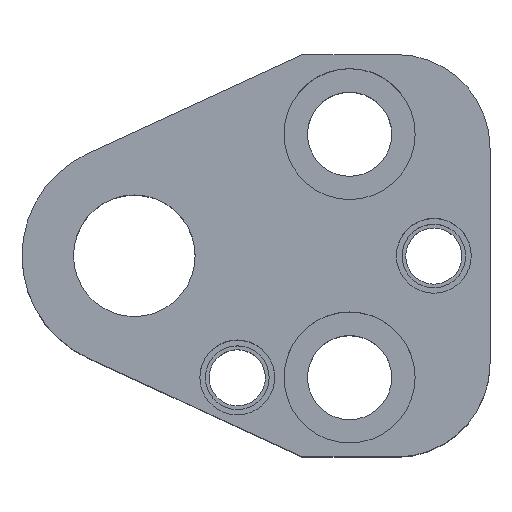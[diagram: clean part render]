
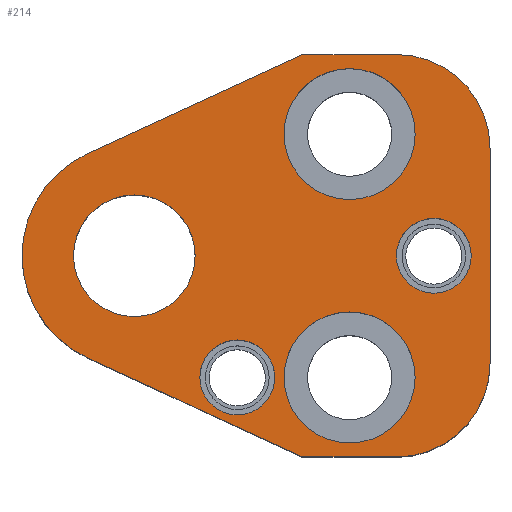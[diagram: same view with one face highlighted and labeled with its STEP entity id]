
A CAD part, top view. The second image highlights one B-rep face of the part: STEP entity #214.
In plain terms, the highlighted planar face has unit normal (0, 0, 1).
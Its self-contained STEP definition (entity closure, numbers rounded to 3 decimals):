
#100=FACE_BOUND('',#305,.T.);
#101=FACE_BOUND('',#306,.T.);
#102=FACE_BOUND('',#307,.T.);
#103=FACE_BOUND('',#308,.T.);
#104=FACE_BOUND('',#309,.T.);
#105=FACE_BOUND('',#310,.T.);
#148=CIRCLE('',#832,10.);
#150=CIRCLE('',#836,10.);
#152=CIRCLE('',#840,4.);
#154=CIRCLE('',#843,4.);
#156=CIRCLE('',#846,4.);
#158=CIRCLE('',#849,4.);
#168=CIRCLE('',#864,12.);
#169=CIRCLE('',#865,7.);
#170=CIRCLE('',#866,7.);
#171=CIRCLE('',#867,7.);
#172=CIRCLE('',#868,7.);
#173=CIRCLE('',#869,6.5);
#174=CIRCLE('',#870,6.5);
#214=ADVANCED_FACE('',(#100,#101,#102,#103,#104,#105),#246,.T.);
#246=PLANE('',#871);
#305=EDGE_LOOP('',(#401,#402,#403,#404,#405,#406,#407,#408));
#306=EDGE_LOOP('',(#409,#410));
#307=EDGE_LOOP('',(#411,#412));
#308=EDGE_LOOP('',(#413,#414));
#309=EDGE_LOOP('',(#415,#416));
#310=EDGE_LOOP('',(#417,#418));
#401=ORIENTED_EDGE('',*,*,#627,.T.);
#402=ORIENTED_EDGE('',*,*,#631,.T.);
#403=ORIENTED_EDGE('',*,*,#634,.T.);
#404=ORIENTED_EDGE('',*,*,#637,.T.);
#405=ORIENTED_EDGE('',*,*,#640,.T.);
#406=ORIENTED_EDGE('',*,*,#666,.T.);
#407=ORIENTED_EDGE('',*,*,#667,.T.);
#408=ORIENTED_EDGE('',*,*,#668,.T.);
#409=ORIENTED_EDGE('',*,*,#669,.F.);
#410=ORIENTED_EDGE('',*,*,#670,.F.);
#411=ORIENTED_EDGE('',*,*,#671,.F.);
#412=ORIENTED_EDGE('',*,*,#672,.F.);
#413=ORIENTED_EDGE('',*,*,#652,.F.);
#414=ORIENTED_EDGE('',*,*,#648,.F.);
#415=ORIENTED_EDGE('',*,*,#646,.F.);
#416=ORIENTED_EDGE('',*,*,#642,.F.);
#417=ORIENTED_EDGE('',*,*,#673,.T.);
#418=ORIENTED_EDGE('',*,*,#674,.T.);
#558=VERTEX_POINT('',#1171);
#559=VERTEX_POINT('',#1173);
#562=VERTEX_POINT('',#1180);
#564=VERTEX_POINT('',#1186);
#566=VERTEX_POINT('',#1192);
#568=VERTEX_POINT('',#1198);
#569=VERTEX_POINT('',#1203);
#570=VERTEX_POINT('',#1204);
#573=VERTEX_POINT('',#1215);
#574=VERTEX_POINT('',#1216);
#585=VERTEX_POINT('',#1251);
#586=VERTEX_POINT('',#1253);
#587=VERTEX_POINT('',#1256);
#588=VERTEX_POINT('',#1257);
#589=VERTEX_POINT('',#1260);
#590=VERTEX_POINT('',#1261);
#591=VERTEX_POINT('',#1264);
#592=VERTEX_POINT('',#1265);
#627=EDGE_CURVE('',#559,#558,#731,.T.);
#631=EDGE_CURVE('',#558,#562,#148,.T.);
#634=EDGE_CURVE('',#562,#564,#736,.T.);
#637=EDGE_CURVE('',#564,#566,#150,.T.);
#640=EDGE_CURVE('',#566,#568,#740,.T.);
#642=EDGE_CURVE('',#569,#570,#152,.T.);
#646=EDGE_CURVE('',#570,#569,#154,.T.);
#648=EDGE_CURVE('',#573,#574,#156,.T.);
#652=EDGE_CURVE('',#574,#573,#158,.T.);
#666=EDGE_CURVE('',#568,#585,#750,.T.);
#667=EDGE_CURVE('',#585,#586,#168,.T.);
#668=EDGE_CURVE('',#586,#559,#751,.T.);
#669=EDGE_CURVE('',#587,#588,#169,.T.);
#670=EDGE_CURVE('',#588,#587,#170,.T.);
#671=EDGE_CURVE('',#589,#590,#171,.T.);
#672=EDGE_CURVE('',#590,#589,#172,.T.);
#673=EDGE_CURVE('',#591,#592,#173,.T.);
#674=EDGE_CURVE('',#592,#591,#174,.T.);
#731=LINE('',#1172,#781);
#736=LINE('',#1187,#786);
#740=LINE('',#1199,#790);
#750=LINE('',#1250,#800);
#751=LINE('',#1254,#801);
#781=VECTOR('',#929,1.);
#786=VECTOR('',#942,1.);
#790=VECTOR('',#954,1.);
#800=VECTOR('',#1014,1.);
#801=VECTOR('',#1017,1.);
#832=AXIS2_PLACEMENT_3D('',#1181,#935,#936);
#836=AXIS2_PLACEMENT_3D('',#1193,#947,#948);
#840=AXIS2_PLACEMENT_3D('',#1202,#958,#959);
#843=AXIS2_PLACEMENT_3D('',#1211,#966,#967);
#846=AXIS2_PLACEMENT_3D('',#1214,#972,#973);
#849=AXIS2_PLACEMENT_3D('',#1223,#980,#981);
#864=AXIS2_PLACEMENT_3D('',#1252,#1015,#1016);
#865=AXIS2_PLACEMENT_3D('',#1255,#1018,#1019);
#866=AXIS2_PLACEMENT_3D('',#1258,#1020,#1021);
#867=AXIS2_PLACEMENT_3D('',#1259,#1022,#1023);
#868=AXIS2_PLACEMENT_3D('',#1262,#1024,#1025);
#869=AXIS2_PLACEMENT_3D('',#1263,#1026,#1027);
#870=AXIS2_PLACEMENT_3D('',#1266,#1028,#1029);
#871=AXIS2_PLACEMENT_3D('',#1267,#1030,#1031);
#929=DIRECTION('',(1.,0.,0.));
#935=DIRECTION('',(0.,0.,1.));
#936=DIRECTION('',(-0.707,0.707,0.));
#942=DIRECTION('',(0.,1.,0.));
#947=DIRECTION('',(0.,0.,1.));
#948=DIRECTION('',(-0.707,-0.707,0.));
#954=DIRECTION('',(-1.,0.,0.));
#958=DIRECTION('',(0.,0.,1.));
#959=DIRECTION('',(-1.,0.,0.));
#966=DIRECTION('',(0.,0.,1.));
#967=DIRECTION('',(1.,0.,0.));
#972=DIRECTION('',(0.,0.,1.));
#973=DIRECTION('',(-1.,0.,0.));
#980=DIRECTION('',(0.,0.,1.));
#981=DIRECTION('',(1.,0.,0.));
#1014=DIRECTION('',(-0.908,-0.418,0.));
#1015=DIRECTION('',(0.,0.,1.));
#1016=DIRECTION('',(1.,0.,0.));
#1017=DIRECTION('',(0.908,-0.418,0.));
#1018=DIRECTION('',(0.,0.,1.));
#1019=DIRECTION('',(1.,0.,0.));
#1020=DIRECTION('',(0.,0.,1.));
#1021=DIRECTION('',(-1.,0.,0.));
#1022=DIRECTION('',(0.,0.,1.));
#1023=DIRECTION('',(1.,0.,0.));
#1024=DIRECTION('',(0.,0.,1.));
#1025=DIRECTION('',(-1.,0.,0.));
#1026=DIRECTION('',(0.,0.,-1.));
#1027=DIRECTION('',(-1.,0.,0.));
#1028=DIRECTION('',(0.,0.,-1.));
#1029=DIRECTION('',(1.,0.,0.));
#1030=DIRECTION('',(0.,0.,1.));
#1031=DIRECTION('',(0.908,-0.418,0.));
#1171=CARTESIAN_POINT('',(28.,-21.5,30.));
#1172=CARTESIAN_POINT('',(18.,-21.5,30.));
#1173=CARTESIAN_POINT('',(18.,-21.5,30.));
#1180=CARTESIAN_POINT('',(38.,-11.5,30.));
#1181=CARTESIAN_POINT('',(28.,-11.5,30.));
#1186=CARTESIAN_POINT('',(38.,11.5,30.));
#1187=CARTESIAN_POINT('',(38.,11.5,30.));
#1192=CARTESIAN_POINT('',(28.,21.5,30.));
#1193=CARTESIAN_POINT('',(28.,11.5,30.));
#1198=CARTESIAN_POINT('',(18.,21.5,30.));
#1199=CARTESIAN_POINT('',(18.,21.5,30.));
#1202=CARTESIAN_POINT('',(11.,-13.,30.));
#1203=CARTESIAN_POINT('',(11.,-17.,30.));
#1204=CARTESIAN_POINT('',(11.,-9.,30.));
#1211=CARTESIAN_POINT('',(11.,-13.,30.));
#1214=CARTESIAN_POINT('',(32.,0.,30.));
#1215=CARTESIAN_POINT('',(32.,-4.,30.));
#1216=CARTESIAN_POINT('',(32.,4.,30.));
#1223=CARTESIAN_POINT('',(32.,0.,30.));
#1250=CARTESIAN_POINT('',(18.,21.5,30.));
#1251=CARTESIAN_POINT('',(-5.019,10.9,30.));
#1252=CARTESIAN_POINT('',(0.,0.,30.));
#1253=CARTESIAN_POINT('',(-5.019,-10.9,30.));
#1254=CARTESIAN_POINT('',(18.,-21.5,30.));
#1255=CARTESIAN_POINT('',(23.,-13.,30.));
#1256=CARTESIAN_POINT('',(23.,-6.,30.));
#1257=CARTESIAN_POINT('',(23.,-20.,30.));
#1258=CARTESIAN_POINT('',(23.,-13.,30.));
#1259=CARTESIAN_POINT('',(23.,13.,30.));
#1260=CARTESIAN_POINT('',(23.,20.,30.));
#1261=CARTESIAN_POINT('',(23.,6.,30.));
#1262=CARTESIAN_POINT('',(23.,13.,30.));
#1263=CARTESIAN_POINT('',(0.,0.,30.));
#1264=CARTESIAN_POINT('',(0.,6.5,30.));
#1265=CARTESIAN_POINT('',(0.,-6.5,30.));
#1266=CARTESIAN_POINT('',(0.,0.,30.));
#1267=CARTESIAN_POINT('',(18.,-21.5,30.));
